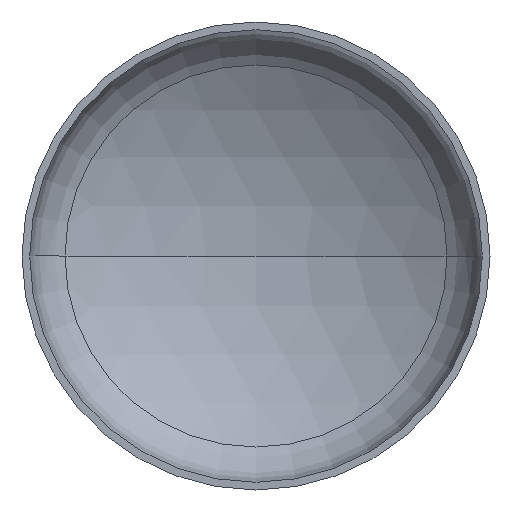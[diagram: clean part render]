
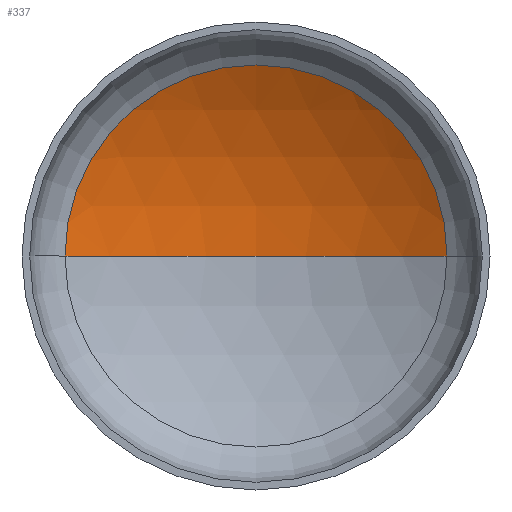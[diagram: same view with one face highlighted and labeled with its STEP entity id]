
A CAD part, front view. The second image highlights one B-rep face of the part: STEP entity #337.
In plain terms, the highlighted spherical face has radius 3200 mm.
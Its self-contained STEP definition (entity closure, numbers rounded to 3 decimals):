
#7 = VERTEX_POINT ( 'NONE', #270 ) ;
#21 = AXIS2_PLACEMENT_3D ( 'NONE', #406, #228, #81 ) ;
#22 = AXIS2_PLACEMENT_3D ( 'NONE', #91, #97, #101 ) ;
#25 = AXIS2_PLACEMENT_3D ( 'NONE', #201, #204, #207 ) ;
#34 = CIRCLE ( 'NONE', #21, 3200. ) ;
#42 = EDGE_LOOP ( 'NONE', ( #160, #284, #157 ) ) ;
#81 = DIRECTION ( 'NONE',  ( 1., 0., 0. ) ) ;
#90 = EDGE_CURVE ( 'NONE', #7, #95, #317, .T. ) ;
#91 = CARTESIAN_POINT ( 'NONE',  ( 0., -2103.165, 0. ) ) ;
#92 = EDGE_CURVE ( 'NONE', #148, #7, #203, .T. ) ;
#94 = EDGE_CURVE ( 'NONE', #148, #95, #34, .T. ) ;
#95 = VERTEX_POINT ( 'NONE', #213 ) ;
#97 = DIRECTION ( 'NONE',  ( 0., 0., -1. ) ) ;
#101 = DIRECTION ( 'NONE',  ( -1., 0., 0. ) ) ;
#103 = DIRECTION ( 'NONE',  ( 0., 0., -1. ) ) ;
#115 = CARTESIAN_POINT ( 'NONE',  ( 0., -2103.165, 0. ) ) ;
#147 = FACE_OUTER_BOUND ( 'NONE', #42, .T. ) ;
#148 = VERTEX_POINT ( 'NONE', #210 ) ;
#157 = ORIENTED_EDGE ( 'NONE', *, *, #90, .T. ) ;
#160 = ORIENTED_EDGE ( 'NONE', *, *, #94, .F. ) ;
#162 = SPHERICAL_SURFACE ( 'NONE', #200, 3200. ) ;
#171 = DIRECTION ( 'NONE',  ( -1., 0., 0. ) ) ;
#200 = AXIS2_PLACEMENT_3D ( 'NONE', #115, #103, #171 ) ;
#201 = CARTESIAN_POINT ( 'NONE',  ( 0., 648.916, 0. ) ) ;
#203 = CIRCLE ( 'NONE', #22, 3200. ) ;
#204 = DIRECTION ( 'NONE',  ( 0., -1., 0. ) ) ;
#207 = DIRECTION ( 'NONE',  ( 1., 0., 0. ) ) ;
#210 = CARTESIAN_POINT ( 'NONE',  ( 0., 1096.835, 0. ) ) ;
#213 = CARTESIAN_POINT ( 'NONE',  ( -1632.805, 648.916, 0. ) ) ;
#228 = DIRECTION ( 'NONE',  ( 0., 0., 1. ) ) ;
#270 = CARTESIAN_POINT ( 'NONE',  ( 1632.805, 648.916, 0. ) ) ;
#284 = ORIENTED_EDGE ( 'NONE', *, *, #92, .T. ) ;
#317 = CIRCLE ( 'NONE', #25, 1632.805 ) ;
#337 = ADVANCED_FACE ( 'NONE', ( #147 ), #162, .F. ) ;
#406 = CARTESIAN_POINT ( 'NONE',  ( 0., -2103.165, 0. ) ) ;
